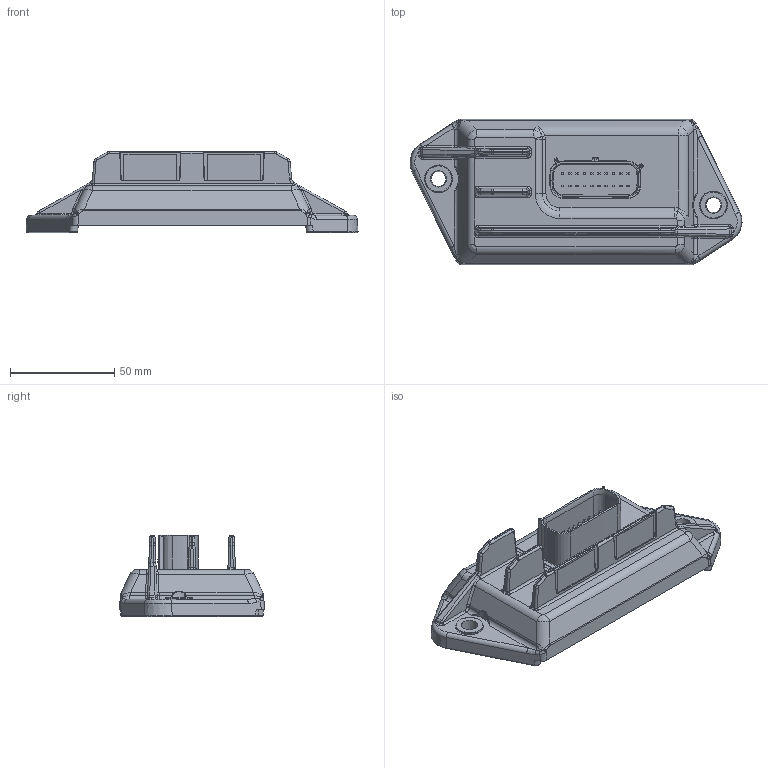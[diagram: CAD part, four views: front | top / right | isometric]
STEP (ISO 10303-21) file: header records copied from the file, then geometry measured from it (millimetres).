
FILE_DESCRIPTION( ( 'STEP AP214' ), '1' );
FILE_NAME( 'C:/Users/root/AppData/Local/Temp/psolqas_6812_0.stp', '2021-12-06T10:07:03', ( 'License CC BY-ND 4.0' ), ( 'CADENAS' ), ' ', 'PARTsolutions', ' ' );
FILE_SCHEMA( ( 'AUTOMOTIVE_DESIGN { 1 0 10303 214 1 1 1 1 }' ) );
Length unit declared in the file: metre
Products named in the file (1): 1
Bounding box: 159.4 x 69.83 x 38.9 mm (x, y, z)
Volume: 143602.2 mm3; surface area: 36539.4 mm2
Topology: 1 solids, 1 shells, 969 faces, 2256 edges, 1277 vertices
Faces by surface type: plane 327, cylinder 300, bspline 188, torus 81, sphere 39, cone 34
Entity records: 38631 total; most frequent: CARTESIAN_POINT 19529, ORIENTED_EDGE 4406, DIRECTION 3216, EDGE_CURVE 2203, VERTEX_POINT 1273, AXIS2_PLACEMENT_3D 1163, EDGE_LOOP 1010, FACE_OUTER_BOUND 975
